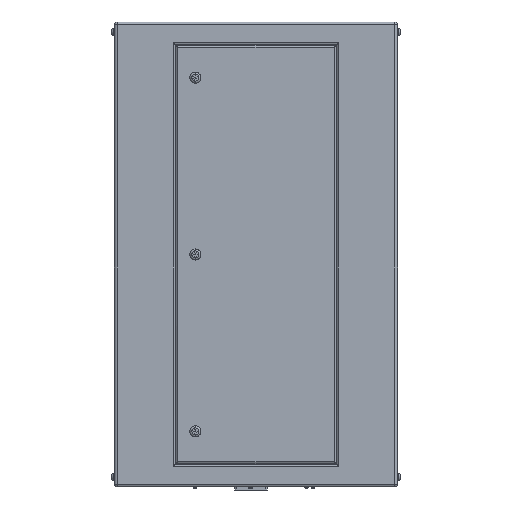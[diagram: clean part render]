
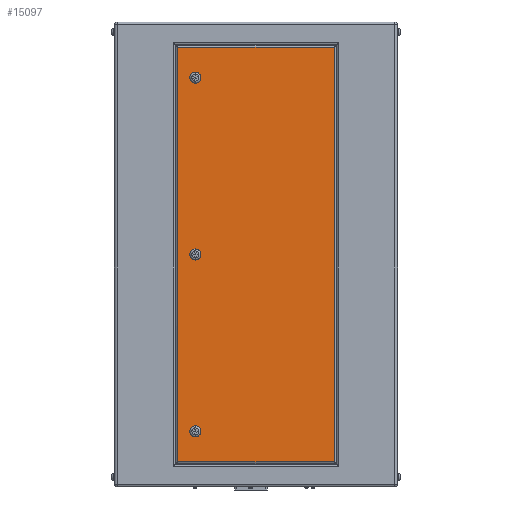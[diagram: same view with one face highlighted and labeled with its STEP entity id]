
A CAD part, left-side view. The second image highlights one B-rep face of the part: STEP entity #15097.
In plain terms, the highlighted planar face has unit normal (-1, 0, 0).
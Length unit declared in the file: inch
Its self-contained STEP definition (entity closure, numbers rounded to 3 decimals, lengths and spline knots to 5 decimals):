
#72 = EDGE_CURVE ( 'NONE', #11168, #15570, #19037, .T. ) ;
#1451 = DIRECTION ( 'NONE',  ( 1., 0., 0. ) ) ;
#1894 = DIRECTION ( 'NONE',  ( 1., 0., 0. ) ) ;
#2145 = DIRECTION ( 'NONE',  ( 0., 0., -1. ) ) ;
#2229 = LINE ( 'NONE', #22373, #23930 ) ;
#2622 = AXIS2_PLACEMENT_3D ( 'NONE', #32438, #6538, #18125 ) ;
#4906 = CARTESIAN_POINT ( 'NONE',  ( -16., 6., -17.5 ) ) ;
#5228 = EDGE_CURVE ( 'NONE', #19517, #5449, #6103, .T. ) ;
#5237 = DIRECTION ( 'NONE',  ( 0., 0., -1. ) ) ;
#5449 = VERTEX_POINT ( 'NONE', #32683 ) ;
#6026 = EDGE_LOOP ( 'NONE', ( #8659, #18599, #29897, #24689 ) ) ;
#6103 = CIRCLE ( 'NONE', #9779, 0.55 ) ;
#6112 = VERTEX_POINT ( 'NONE', #8019 ) ;
#6173 = AXIS2_PLACEMENT_3D ( 'NONE', #10999, #13812, #16121 ) ;
#6538 = DIRECTION ( 'NONE',  ( 1., 0., 0. ) ) ;
#7021 = EDGE_CURVE ( 'NONE', #15570, #11168, #8316, .T. ) ;
#7572 = EDGE_LOOP ( 'NONE', ( #12792, #28171 ) ) ;
#8019 = CARTESIAN_POINT ( 'NONE',  ( -16., 6., -18.05 ) ) ;
#8316 = CIRCLE ( 'NONE', #26525, 0.55 ) ;
#8331 = CARTESIAN_POINT ( 'NONE',  ( -16., 6., -0.55 ) ) ;
#8659 = ORIENTED_EDGE ( 'NONE', *, *, #33061, .T. ) ;
#9565 = VERTEX_POINT ( 'NONE', #27929 ) ;
#9672 = VECTOR ( 'NONE', #21038, 39.37008 ) ;
#9779 = AXIS2_PLACEMENT_3D ( 'NONE', #33795, #13618, #5237 ) ;
#10308 = VECTOR ( 'NONE', #31025, 39.37008 ) ;
#10999 = CARTESIAN_POINT ( 'NONE',  ( -16., 6., 0. ) ) ;
#11168 = VERTEX_POINT ( 'NONE', #32842 ) ;
#11465 = LINE ( 'NONE', #16970, #35753 ) ;
#12736 = CIRCLE ( 'NONE', #33813, 0.55 ) ;
#12792 = ORIENTED_EDGE ( 'NONE', *, *, #72, .T. ) ;
#13618 = DIRECTION ( 'NONE',  ( 1., 0., 0. ) ) ;
#13632 = DIRECTION ( 'NONE',  ( 1., 0., 0. ) ) ;
#13812 = DIRECTION ( 'NONE',  ( 1., 0., 0. ) ) ;
#14704 = EDGE_CURVE ( 'NONE', #16708, #17056, #33992, .T. ) ;
#15097 = ADVANCED_FACE ( 'NONE', ( #33182, #18909, #16025, #21927 ), #19099, .F. ) ;
#15570 = VERTEX_POINT ( 'NONE', #25054 ) ;
#15623 = CARTESIAN_POINT ( 'NONE',  ( -16., -7.74, 20.49 ) ) ;
#15685 = DIRECTION ( 'NONE',  ( 0., 0., -1. ) ) ;
#16025 = FACE_BOUND ( 'NONE', #7572, .T. ) ;
#16121 = DIRECTION ( 'NONE',  ( 0., 0., -1. ) ) ;
#16325 = AXIS2_PLACEMENT_3D ( 'NONE', #24883, #1894, #25247 ) ;
#16708 = VERTEX_POINT ( 'NONE', #15623 ) ;
#16970 = CARTESIAN_POINT ( 'NONE',  ( -16., 7.74, -23. ) ) ;
#17056 = VERTEX_POINT ( 'NONE', #18623 ) ;
#17342 = DIRECTION ( 'NONE',  ( 0., 0., -1. ) ) ;
#17784 = LINE ( 'NONE', #32302, #9672 ) ;
#18125 = DIRECTION ( 'NONE',  ( 0., 0., -1. ) ) ;
#18299 = ORIENTED_EDGE ( 'NONE', *, *, #34004, .T. ) ;
#18599 = ORIENTED_EDGE ( 'NONE', *, *, #26820, .T. ) ;
#18623 = CARTESIAN_POINT ( 'NONE',  ( -16., 7.74, 20.49 ) ) ;
#18909 = FACE_BOUND ( 'NONE', #34936, .T. ) ;
#19037 = CIRCLE ( 'NONE', #2622, 0.55 ) ;
#19099 = PLANE ( 'NONE',  #24243 ) ;
#19382 = DIRECTION ( 'NONE',  ( 0., 0., 1. ) ) ;
#19517 = VERTEX_POINT ( 'NONE', #8331 ) ;
#19572 = CARTESIAN_POINT ( 'NONE',  ( -16., 14., 20.49 ) ) ;
#20028 = CARTESIAN_POINT ( 'NONE',  ( -16., 14., -23. ) ) ;
#21038 = DIRECTION ( 'NONE',  ( 0., -1., 0. ) ) ;
#21927 = FACE_OUTER_BOUND ( 'NONE', #6026, .T. ) ;
#21968 = CARTESIAN_POINT ( 'NONE',  ( -16., -7.74, -20.49 ) ) ;
#22373 = CARTESIAN_POINT ( 'NONE',  ( -16., -7.74, -23. ) ) ;
#22545 = CIRCLE ( 'NONE', #6173, 0.55 ) ;
#23930 = VECTOR ( 'NONE', #19382, 39.37008 ) ;
#24040 = EDGE_CURVE ( 'NONE', #5449, #19517, #22545, .T. ) ;
#24243 = AXIS2_PLACEMENT_3D ( 'NONE', #20028, #24952, #2145 ) ;
#24510 = ORIENTED_EDGE ( 'NONE', *, *, #24040, .T. ) ;
#24689 = ORIENTED_EDGE ( 'NONE', *, *, #35452, .T. ) ;
#24883 = CARTESIAN_POINT ( 'NONE',  ( -16., 6., -17.5 ) ) ;
#24952 = DIRECTION ( 'NONE',  ( 1., 0., 0. ) ) ;
#25054 = CARTESIAN_POINT ( 'NONE',  ( -16., 6., 18.05 ) ) ;
#25247 = DIRECTION ( 'NONE',  ( 0., 0., -1. ) ) ;
#25393 = ORIENTED_EDGE ( 'NONE', *, *, #33013, .T. ) ;
#26525 = AXIS2_PLACEMENT_3D ( 'NONE', #30230, #1451, #15685 ) ;
#26820 = EDGE_CURVE ( 'NONE', #27992, #16708, #2229, .T. ) ;
#27645 = ORIENTED_EDGE ( 'NONE', *, *, #5228, .T. ) ;
#27929 = CARTESIAN_POINT ( 'NONE',  ( -16., 6., -16.95 ) ) ;
#27992 = VERTEX_POINT ( 'NONE', #21968 ) ;
#28171 = ORIENTED_EDGE ( 'NONE', *, *, #7021, .T. ) ;
#29778 = VERTEX_POINT ( 'NONE', #34816 ) ;
#29897 = ORIENTED_EDGE ( 'NONE', *, *, #14704, .T. ) ;
#30230 = CARTESIAN_POINT ( 'NONE',  ( -16., 6., 17.5 ) ) ;
#31025 = DIRECTION ( 'NONE',  ( 0., 1., 0. ) ) ;
#32302 = CARTESIAN_POINT ( 'NONE',  ( -16., 14., -20.49 ) ) ;
#32438 = CARTESIAN_POINT ( 'NONE',  ( -16., 6., 17.5 ) ) ;
#32683 = CARTESIAN_POINT ( 'NONE',  ( -16., 6., 0.55 ) ) ;
#32842 = CARTESIAN_POINT ( 'NONE',  ( -16., 6., 16.95 ) ) ;
#33013 = EDGE_CURVE ( 'NONE', #6112, #9565, #33168, .T. ) ;
#33061 = EDGE_CURVE ( 'NONE', #29778, #27992, #17784, .T. ) ;
#33168 = CIRCLE ( 'NONE', #16325, 0.55 ) ;
#33182 = FACE_BOUND ( 'NONE', #34633, .T. ) ;
#33795 = CARTESIAN_POINT ( 'NONE',  ( -16., 6., 0. ) ) ;
#33811 = DIRECTION ( 'NONE',  ( 0., 0., -1. ) ) ;
#33813 = AXIS2_PLACEMENT_3D ( 'NONE', #4906, #13632, #33811 ) ;
#33992 = LINE ( 'NONE', #19572, #10308 ) ;
#34004 = EDGE_CURVE ( 'NONE', #9565, #6112, #12736, .T. ) ;
#34633 = EDGE_LOOP ( 'NONE', ( #25393, #18299 ) ) ;
#34816 = CARTESIAN_POINT ( 'NONE',  ( -16., 7.74, -20.49 ) ) ;
#34936 = EDGE_LOOP ( 'NONE', ( #27645, #24510 ) ) ;
#35452 = EDGE_CURVE ( 'NONE', #17056, #29778, #11465, .T. ) ;
#35753 = VECTOR ( 'NONE', #17342, 39.37008 ) ;
